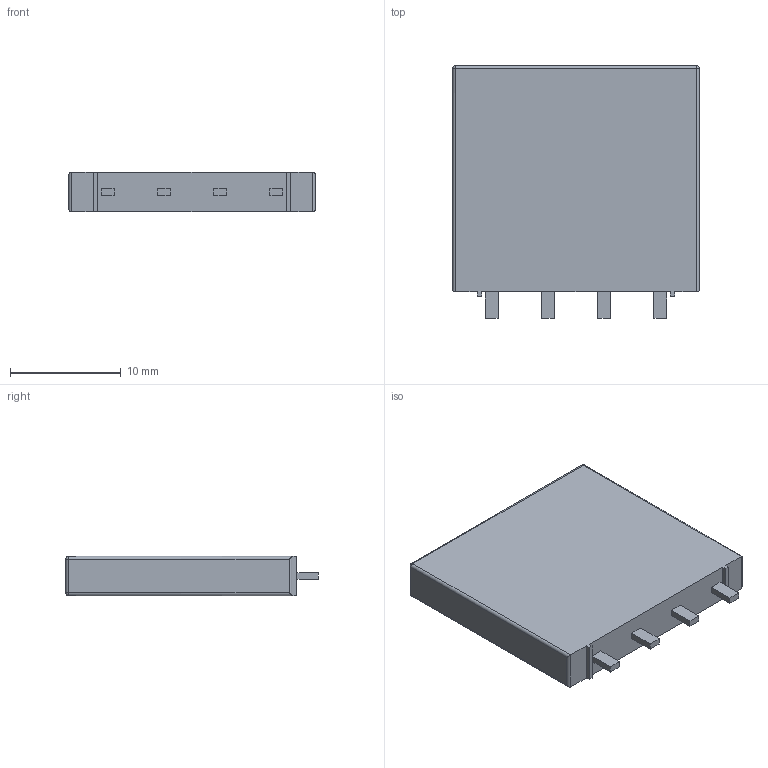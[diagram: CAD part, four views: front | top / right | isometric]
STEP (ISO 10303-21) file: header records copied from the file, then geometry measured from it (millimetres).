
FILE_DESCRIPTION (( 'STEP AP214' ), '1' );
FILE_NAME ( 'SIP356W114P508L2230H2083Q4.STEP', '2021-10-06T06:49:12', ( '' ), ( '' ), '', '©2017 PCB Libraries, Inc.', '' );
FILE_SCHEMA (( 'AUTOMOTIVE_DESIGN' ));
Length unit declared in the file: millimetre
Products named in the file (1): SIP356W114P508L2230H2083Q4
Bounding box: 22.3 x 22.83 x 3.56 mm (x, y, z)
Volume: 1628.9 mm3; surface area: 1245.5 mm2
Topology: 5 solids, 5 shells, 52 faces, 114 edges, 68 vertices
Faces by surface type: plane 38, cylinder 10, sphere 4
Entity records: 1578 total; most frequent: CARTESIAN_POINT 243, DIRECTION 224, ORIENTED_EDGE 220, EDGE_CURVE 110, VECTOR 94, LINE 94, VERTEX_POINT 68, AXIS2_PLACEMENT_3D 65
